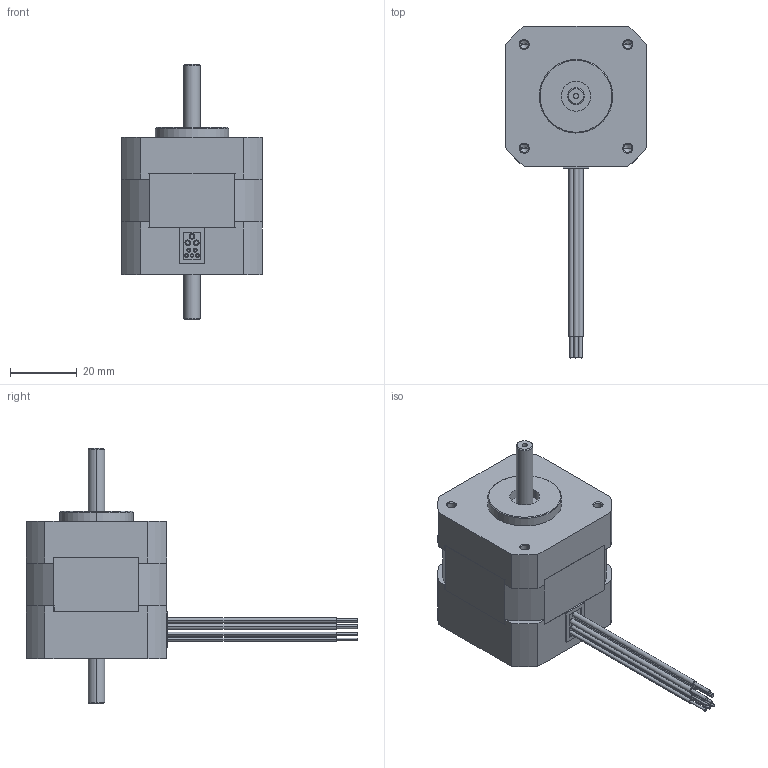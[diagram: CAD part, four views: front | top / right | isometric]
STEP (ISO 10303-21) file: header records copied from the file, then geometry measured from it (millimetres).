
FILE_DESCRIPTION (( 'STEP AP214' ), '1' );
FILE_NAME ('BLY171D.STEP', '2011-11-22T16:59:16', ( '' ), ( '' ), 'SwSTEP 2.0', 'SolidWorks 2011', '' );
FILE_SCHEMA (( 'AUTOMOTIVE_DESIGN' ));
Length unit declared in the file: inch
Products named in the file (1): BLY171D
Bounding box: 42.01 x 99.16 x 76.3 mm (x, y, z)
Volume: 71125.3 mm3; surface area: 13568.3 mm2
Topology: 1 solids, 1 shells, 240 faces, 570 edges, 364 vertices
Faces by surface type: plane 116, cylinder 94, cone 30
Entity records: 8677 total; most frequent: DIRECTION 1246, CARTESIAN_POINT 1163, ORIENTED_EDGE 1116, EDGE_CURVE 558, AXIS2_PLACEMENT_3D 447, VERTEX_POINT 364, LINE 352, VECTOR 352
